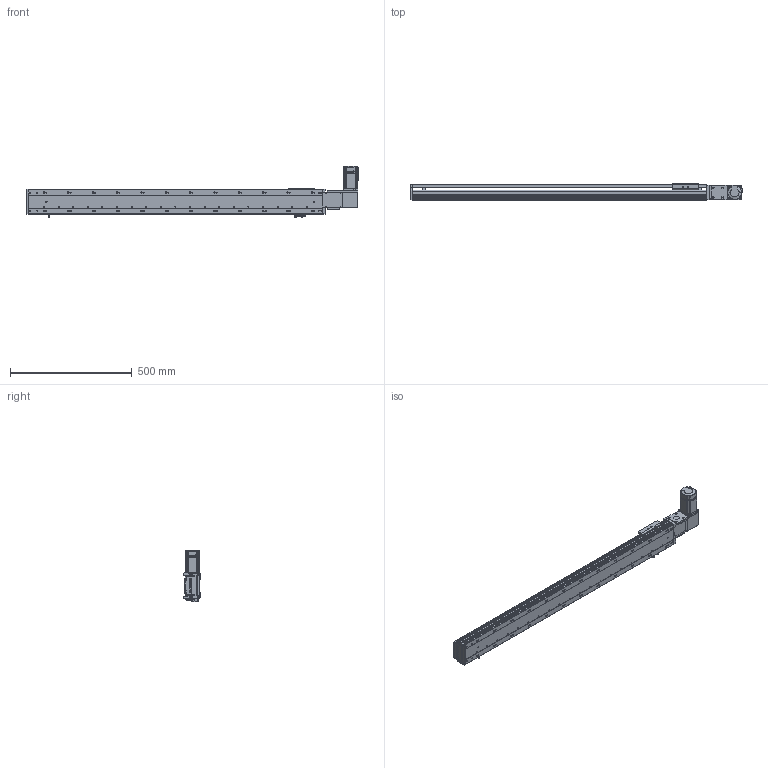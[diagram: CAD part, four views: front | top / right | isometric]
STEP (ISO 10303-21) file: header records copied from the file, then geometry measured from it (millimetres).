
FILE_DESCRIPTION (( 'STEP AP203' ), '1' );
FILE_NAME ('RY100-T-300-RK.SLDASM_1000.step', '2024-04-25T08:22:34', ( '盈信电脑' ), ( '东莞市道滘镇水果街19号' ), 'SwSTEP 2.0', 'SolidWorks 2016', '' );
FILE_SCHEMA (( 'CONFIG_CONTROL_DESIGN' ));
Length unit declared in the file: millimetre
Products named in the file (15): RY100-T左右折电机安装板; RY100-T粣創揤踡裔; RY100-T肮祭謫臏賑輸; 1; 覜茼ん672; RY100-T-300-RK倰第奻裔_1000; 侂狟200W萇儂; RY100-T肮祭謫翋盓傅釱; RY100-T翋肮祭謫裔啣2; RY100俋离覜茼え; 滅袉蝶18-10; RY100-T-300-RK倰第菁釱_1000; RY100-T-300-RK.SLDASM_1000; RY100綴裔啣; RY80-T肮祭謫俋欶
Assembly tree (18 placements, depth 3):
  RY100-T-300-RK.SLDASM_1000
    RY100-T-300-RK倰第菁釱_1000
    RY100-T-300-RK倰第奻裔_1000
    RY100-T肮祭謫臏賑輸
    RY100綴裔啣
    覜茼ん672  x3
    RY100俋离覜茼え
    RY100-T肮祭謫翋盓傅釱
    RY100-T左右折电机安装板
    侂狟200W萇儂
      1
    RY100-T粣創揤踡裔
    滅袉蝶18-10  x2
    RY100-T翋肮祭謫裔啣2  x2
    RY80-T肮祭謫俋欶
Bounding box: 1364 x 66 x 209.7 mm (x, y, z)
Volume: 2619277.9 mm3; surface area: 1081837.8 mm2
Topology: 17 solids, 17 shells, 2293 faces, 6430 edges, 4184 vertices
Faces by surface type: plane 1209, cylinder 865, cone 141, bspline 78
Entity records: 74462 total; most frequent: CARTESIAN_POINT 18415, ORIENTED_EDGE 11596, DIRECTION 10974, EDGE_CURVE 5798, VERTEX_POINT 3820, VECTOR 3662, LINE 3662, AXIS2_PLACEMENT_3D 3656
